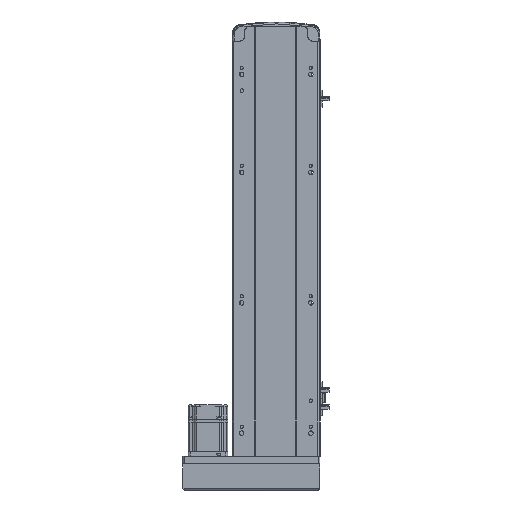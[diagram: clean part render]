
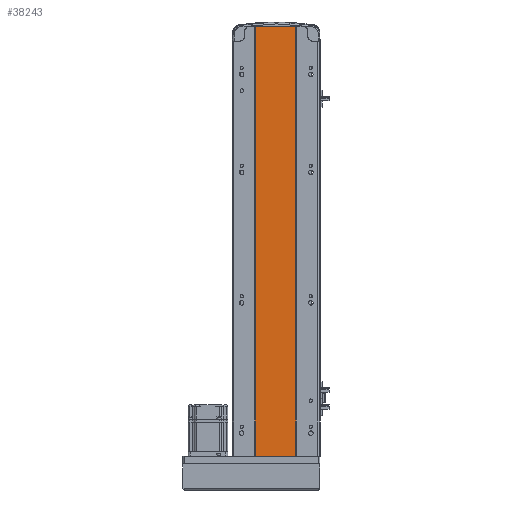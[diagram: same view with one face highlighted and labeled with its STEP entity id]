
A CAD part, front view. The second image highlights one B-rep face of the part: STEP entity #38243.
In plain terms, the highlighted planar face has unit normal (0, -1, 0).
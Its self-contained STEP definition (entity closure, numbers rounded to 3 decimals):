
#1011 = DIRECTION ( 'NONE',  ( 0., 0., -1. ) ) ;
#1391 = AXIS2_PLACEMENT_3D ( 'NONE', #10976, #46401, #3119 ) ;
#3119 = DIRECTION ( 'NONE',  ( -1., 0., 0. ) ) ;
#6598 = EDGE_LOOP ( 'NONE', ( #23280, #34786, #53898, #43850 ) ) ;
#8013 = VERTEX_POINT ( 'NONE', #20826 ) ;
#9856 = VERTEX_POINT ( 'NONE', #17724 ) ;
#10976 = CARTESIAN_POINT ( 'NONE',  ( -32., 1., 659. ) ) ;
#11066 = LINE ( 'NONE', #13518, #24134 ) ;
#12510 = VERTEX_POINT ( 'NONE', #17948 ) ;
#12678 = LINE ( 'NONE', #55290, #14052 ) ;
#13518 = CARTESIAN_POINT ( 'NONE',  ( -32., 1., 659. ) ) ;
#13600 = VECTOR ( 'NONE', #48482, 1000. ) ;
#14052 = VECTOR ( 'NONE', #46439, 1000. ) ;
#17254 = EDGE_CURVE ( 'NONE', #23641, #8013, #12678, .T. ) ;
#17724 = CARTESIAN_POINT ( 'NONE',  ( 30., 1., 0. ) ) ;
#17948 = CARTESIAN_POINT ( 'NONE',  ( -32., 1., 0. ) ) ;
#20826 = CARTESIAN_POINT ( 'NONE',  ( 30., 1., 659. ) ) ;
#23280 = ORIENTED_EDGE ( 'NONE', *, *, #46928, .T. ) ;
#23641 = VERTEX_POINT ( 'NONE', #51085 ) ;
#24134 = VECTOR ( 'NONE', #53396, 1000. ) ;
#25243 = VECTOR ( 'NONE', #1011, 1000. ) ;
#32882 = LINE ( 'NONE', #44264, #13600 ) ;
#34786 = ORIENTED_EDGE ( 'NONE', *, *, #48335, .F. ) ;
#37087 = CARTESIAN_POINT ( 'NONE',  ( 30., 1., 659. ) ) ;
#37491 = FACE_OUTER_BOUND ( 'NONE', #6598, .T. ) ;
#38243 = ADVANCED_FACE ( 'NONE', ( #37491 ), #55631, .F. ) ;
#41549 = EDGE_CURVE ( 'NONE', #23641, #12510, #11066, .T. ) ;
#43850 = ORIENTED_EDGE ( 'NONE', *, *, #41549, .T. ) ;
#44264 = CARTESIAN_POINT ( 'NONE',  ( -32., 1., 0. ) ) ;
#46401 = DIRECTION ( 'NONE',  ( 0., 1., 0. ) ) ;
#46439 = DIRECTION ( 'NONE',  ( 1., 0., 0. ) ) ;
#46928 = EDGE_CURVE ( 'NONE', #12510, #9856, #32882, .T. ) ;
#47098 = LINE ( 'NONE', #37087, #25243 ) ;
#48335 = EDGE_CURVE ( 'NONE', #8013, #9856, #47098, .T. ) ;
#48482 = DIRECTION ( 'NONE',  ( 1., 0., 0. ) ) ;
#51085 = CARTESIAN_POINT ( 'NONE',  ( -32., 1., 659. ) ) ;
#53396 = DIRECTION ( 'NONE',  ( 0., 0., -1. ) ) ;
#53898 = ORIENTED_EDGE ( 'NONE', *, *, #17254, .F. ) ;
#55290 = CARTESIAN_POINT ( 'NONE',  ( -32., 1., 659. ) ) ;
#55631 = PLANE ( 'NONE',  #1391 ) ;
